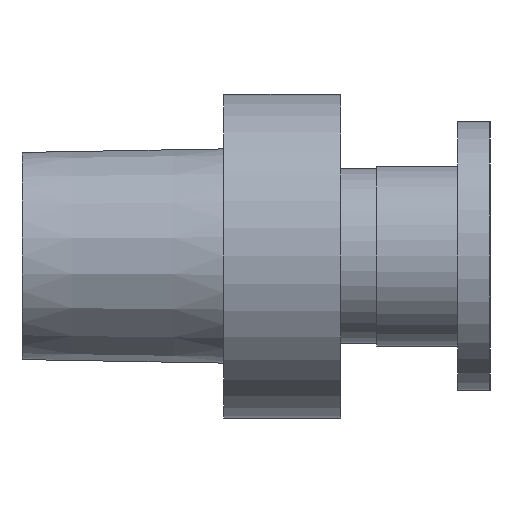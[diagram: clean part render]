
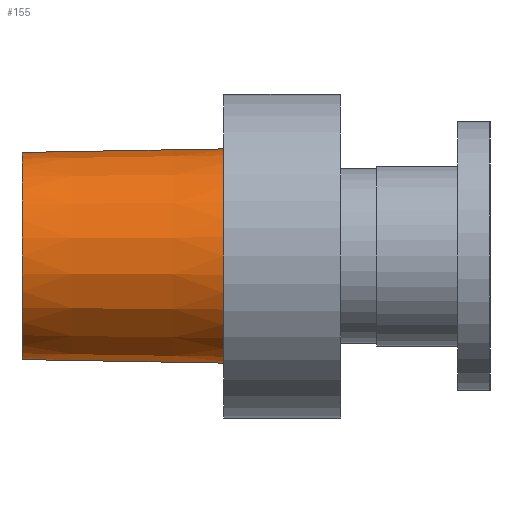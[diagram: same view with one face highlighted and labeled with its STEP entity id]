
A CAD part, left-side view. The second image highlights one B-rep face of the part: STEP entity #155.
In plain terms, the highlighted conical face has half-angle 1 degrees and reference radius 5.95 mm.
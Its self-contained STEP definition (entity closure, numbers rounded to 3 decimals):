
#155 = ADVANCED_FACE( '', ( #311, #312 ), #313, .T. );
#311 = FACE_BOUND( '', #465, .T. );
#312 = FACE_OUTER_BOUND( '', #466, .T. );
#313 = CONICAL_SURFACE( '', #467, 5.95, 0.017 );
#465 = EDGE_LOOP( '', ( #672 ) );
#466 = EDGE_LOOP( '', ( #673 ) );
#467 = AXIS2_PLACEMENT_3D( '', #674, #675, #676 );
#672 = ORIENTED_EDGE( '', *, *, #836, .F. );
#673 = ORIENTED_EDGE( '', *, *, #818, .T. );
#674 = CARTESIAN_POINT( '', ( -16., 3.25, 0. ) );
#675 = DIRECTION( '', ( 0., -1., 0. ) );
#676 = DIRECTION( '', ( 0., 0., -1. ) );
#818 = EDGE_CURVE( '', #942, #942, #943, .T. );
#836 = EDGE_CURVE( '', #967, #967, #968, .T. );
#942 = VERTEX_POINT( '', #1083 );
#943 = CIRCLE( '', #1084, 5.95 );
#967 = VERTEX_POINT( '', #1113 );
#968 = CIRCLE( '', #1114, 5.755 );
#1083 = CARTESIAN_POINT( '', ( -16., 3.25, 5.95 ) );
#1084 = AXIS2_PLACEMENT_3D( '', #1227, #1228, #1229 );
#1113 = CARTESIAN_POINT( '', ( -16., 14.45, 5.755 ) );
#1114 = AXIS2_PLACEMENT_3D( '', #1253, #1254, #1255 );
#1227 = CARTESIAN_POINT( '', ( -16., 3.25, 0. ) );
#1228 = DIRECTION( '', ( 0., 1., 0. ) );
#1229 = DIRECTION( '', ( 0., 0., 1. ) );
#1253 = CARTESIAN_POINT( '', ( -16., 14.45, 0. ) );
#1254 = DIRECTION( '', ( 0., 1., 0. ) );
#1255 = DIRECTION( '', ( 0., 0., 1. ) );
